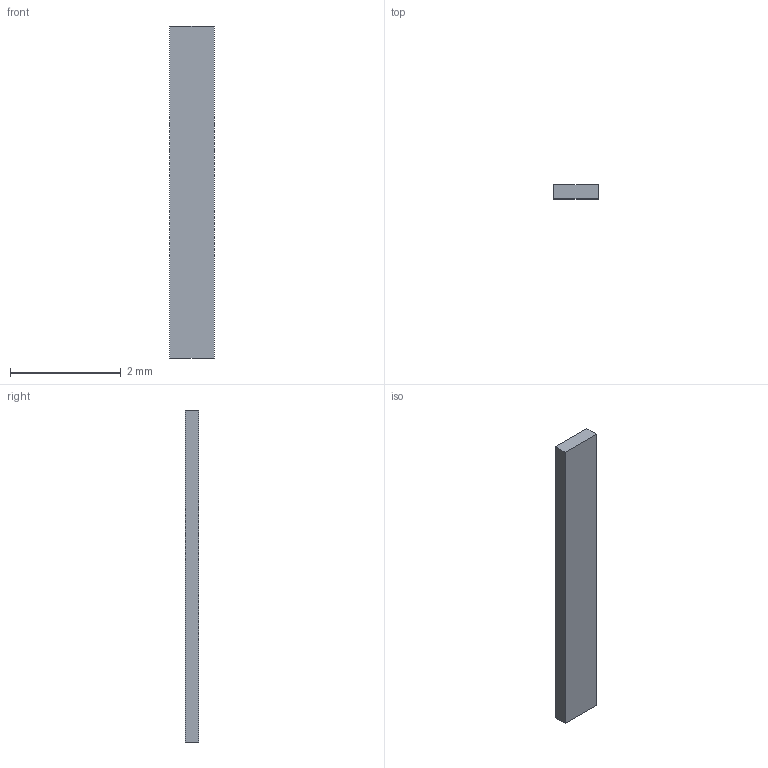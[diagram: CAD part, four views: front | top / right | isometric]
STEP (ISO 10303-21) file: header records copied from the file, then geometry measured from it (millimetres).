
FILE_DESCRIPTION(('Open CASCADE Model'),'2;1');
FILE_NAME('R36_STOCK_ADAPTER_CARRIER_EDGE_PAD_2_REAR_INSTALLED_0p25', '2026-09-15T13:40:46',('Author'),('Open CASCADE'), 'Open CASCADE STEP processor 7.9','build123d','Unknown');
FILE_SCHEMA(('AUTOMOTIVE_DESIGN { 1 0 10303 214 1 1 1 1 }'));
Length unit declared in the file: millimetre
Products named in the file (1): R36_STOCK_ADAPTER_CARRIER_EDGE_PAD_2_REAR_INSTALLED_0p25
Bounding box: 0.8 x 0.25 x 6 mm (x, y, z)
Volume: 1.2 mm3; surface area: 13 mm2
Topology: 1 solids, 1 shells, 6 faces, 12 edges, 8 vertices
Faces by surface type: plane 6
Entity records: 322 total; most frequent: CARTESIAN_POINT 51, DIRECTION 50, LINE 36, VECTOR 36, ORIENTED_EDGE 24, PCURVE 24, DEFINITIONAL_REPRESENTATION 24, EDGE_CURVE 12
